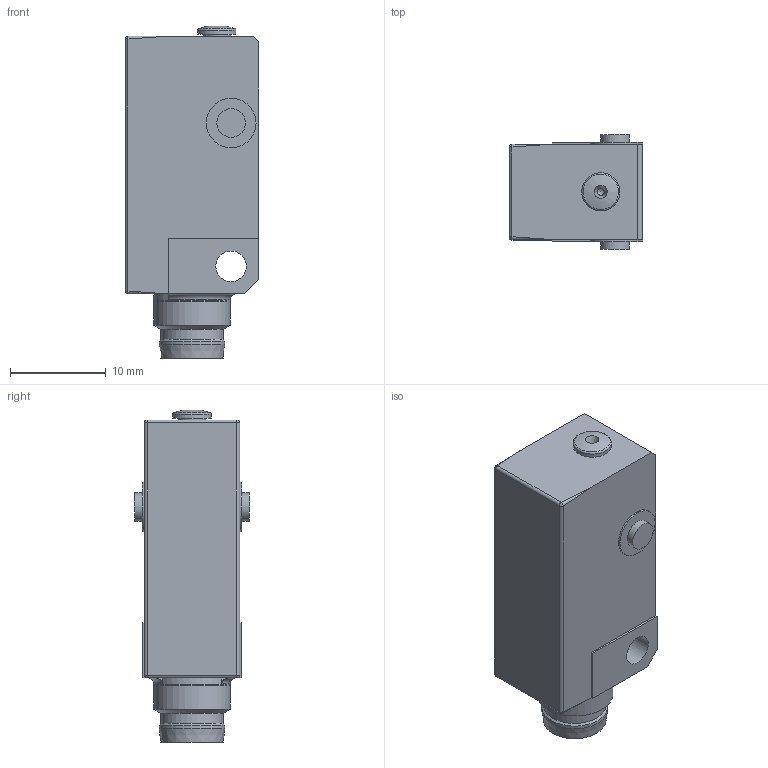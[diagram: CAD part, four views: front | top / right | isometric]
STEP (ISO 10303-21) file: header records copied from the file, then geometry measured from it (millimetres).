
FILE_DESCRIPTION( ( '' ), '1' );
FILE_NAME( 'Z:/bereich/BECH/Services/me_CAD/Solid Edge/Models/Dokumentationen/Ultraschall/UxDK 10/Vereinfachte Modelle/Neutralformate/UxDK 10_S35A.stp', '2007-01-18T07:51:51', ( 'Erich Hohloch' ), ( 'Baumer Electric AG' ), 'XStep 1.0', 'Solid Edge', ' ' );
FILE_SCHEMA( ( 'automotive_design' ) );
Length unit declared in the file: millimetre
Products named in the file (1): 159167_US10
Bounding box: 14 x 12 x 34.76 mm (x, y, z)
Volume: 3896.9 mm3; surface area: 1989.5 mm2
Topology: 1 solids, 1 shells, 130 faces, 328 edges, 207 vertices
Faces by surface type: plane 79, cylinder 35, bspline 5, sphere 5, cone 4, torus 2
Full cylindrical faces by diameter (mm): 3 x3, 3.2 x1, 4 x1, 5.2 x2, 5.8 x1, 6.1 x1, 6.5 x1, 6.9 x1, 7.879 x1, 8 x2, 8.6 x1
Entity records: 4789 total; most frequent: CARTESIAN_POINT 745, DIRECTION 622, ORIENTED_EDGE 584, EDGE_CURVE 292, AXIS2_PLACEMENT_3D 218, VERTEX_POINT 201, LINE 186, VECTOR 186
